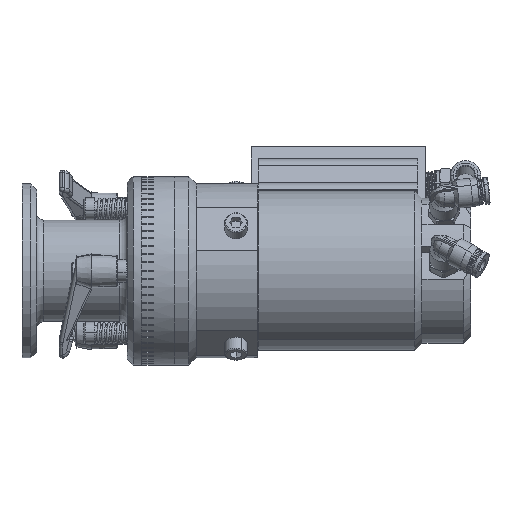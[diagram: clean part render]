
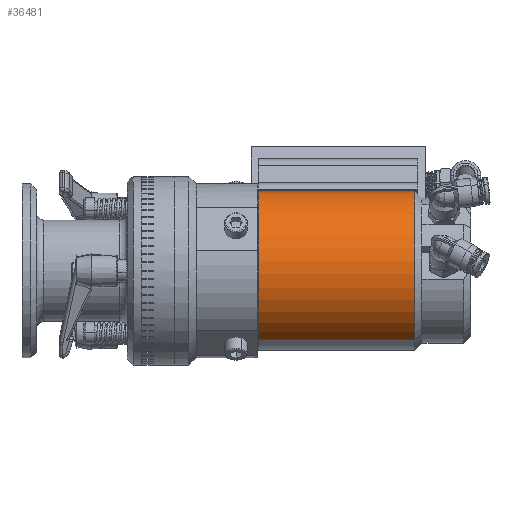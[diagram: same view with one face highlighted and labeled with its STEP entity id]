
A CAD part, left-side view. The second image highlights one B-rep face of the part: STEP entity #36481.
In plain terms, the highlighted cylindrical face has radius 34.925 mm (diameter 69.85 mm), a partial arc.
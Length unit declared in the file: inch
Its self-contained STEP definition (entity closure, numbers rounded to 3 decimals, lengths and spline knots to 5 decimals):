
#246 = LINE ( 'NONE', #3367, #35612 ) ;
#1069 = AXIS2_PLACEMENT_3D ( 'NONE', #7507, #35779, #32667 ) ;
#3316 = EDGE_CURVE ( 'Defeatured_0_6+Defeatured_0_5+Defeatured_0_634+Defeatured_0_9', #40053, #45210, #36994, .T. ) ;
#3367 = CARTESIAN_POINT ( 'NONE',  ( -0.40791, -5.99752, 0.82343 ) ) ;
#3450 = ORIENTED_EDGE ( 'NONE', *, *, #9420, .T. ) ;
#5210 = DIRECTION ( 'NONE',  ( 0., 1., 0. ) ) ;
#5370 = CARTESIAN_POINT ( 'NONE',  ( -0.70923, -3.17452, -0.51815 ) ) ;
#6387 = EDGE_CURVE ( 'Defeatured_0_6+Defeatured_0_8+Defeatured_0_635+Defeatured_0_634', #28865, #24418, #8075, .T. ) ;
#7507 = CARTESIAN_POINT ( 'NONE',  ( -0.70923, -5.99752, -0.51815 ) ) ;
#8075 = CIRCLE ( 'NONE', #34562, 1.375 ) ;
#8818 = CARTESIAN_POINT ( 'NONE',  ( -1.39673, -5.99752, -1.70894 ) ) ;
#9420 = EDGE_CURVE ( 'Defeatured_0_6+Defeatured_0_634+Defeatured_0_8+Defeatured_0_5', #24418, #40053, #246, .T. ) ;
#10750 = CIRCLE ( 'NONE', #36939, 1.375 ) ;
#12401 = CARTESIAN_POINT ( 'NONE',  ( -0.40791, -5.87252, 0.82343 ) ) ;
#12474 = ORIENTED_EDGE ( 'NONE', *, *, #32293, .F. ) ;
#14401 = ORIENTED_EDGE ( 'NONE', *, *, #6387, .T. ) ;
#14880 = VECTOR ( 'NONE', #27041, 39.37008 ) ;
#15749 = CARTESIAN_POINT ( 'NONE',  ( -0.40791, -5.99752, 0.82343 ) ) ;
#19750 = VERTEX_POINT ( 'NONE', #29378 ) ;
#19860 = DIRECTION ( 'NONE',  ( 0., 1., 0. ) ) ;
#20579 = VECTOR ( 'NONE', #22740, 39.37008 ) ;
#20623 = CARTESIAN_POINT ( 'NONE',  ( -0.40791, -3.17452, 0.82343 ) ) ;
#22029 = CYLINDRICAL_SURFACE ( 'NONE', #1069, 1.375 ) ;
#22740 = DIRECTION ( 'NONE',  ( 0., 1., 0. ) ) ;
#24418 = VERTEX_POINT ( 'NONE', #12401 ) ;
#27041 = DIRECTION ( 'NONE',  ( 0., 1., 0. ) ) ;
#27313 = CARTESIAN_POINT ( 'NONE',  ( -1.39673, -5.87252, -1.70894 ) ) ;
#28700 = EDGE_LOOP ( 'NONE', ( #12474, #14401, #3450, #41686, #44030 ) ) ;
#28865 = VERTEX_POINT ( 'NONE', #27313 ) ;
#29378 = CARTESIAN_POINT ( 'NONE',  ( -1.39673, -3.17452, -1.70894 ) ) ;
#29935 = DIRECTION ( 'NONE',  ( -0.5, 0., -0.866 ) ) ;
#30539 = DIRECTION ( 'NONE',  ( 0.5, 0., 0.866 ) ) ;
#32293 = EDGE_CURVE ( 'NONE', #28865, #19750, #42786, .T. ) ;
#32667 = DIRECTION ( 'NONE',  ( -0.5, 0., -0.866 ) ) ;
#34562 = AXIS2_PLACEMENT_3D ( 'NONE', #37472, #19860, #30539 ) ;
#35336 = CARTESIAN_POINT ( 'NONE',  ( -0.40791, -3.17952, 0.82343 ) ) ;
#35612 = VECTOR ( 'NONE', #38434, 39.37008 ) ;
#35779 = DIRECTION ( 'NONE',  ( 0., 1., 0. ) ) ;
#36481 = ADVANCED_FACE ( 'Defeatured_0_6', ( #38587 ), #22029, .T. ) ;
#36939 = AXIS2_PLACEMENT_3D ( 'NONE', #5370, #5210, #29935 ) ;
#36994 = LINE ( 'NONE', #15749, #14880 ) ;
#37472 = CARTESIAN_POINT ( 'NONE',  ( -0.70923, -5.87252, -0.51815 ) ) ;
#38434 = DIRECTION ( 'NONE',  ( 0., 1., 0. ) ) ;
#38587 = FACE_OUTER_BOUND ( 'NONE', #28700, .T. ) ;
#40053 = VERTEX_POINT ( 'NONE', #35336 ) ;
#41116 = EDGE_CURVE ( 'Defeatured_0_9+Defeatured_0_6+Defeatured_0_5+Defeatured_0_5', #19750, #45210, #10750, .T. ) ;
#41686 = ORIENTED_EDGE ( 'NONE', *, *, #3316, .T. ) ;
#42786 = LINE ( 'NONE', #8818, #20579 ) ;
#44030 = ORIENTED_EDGE ( 'NONE', *, *, #41116, .F. ) ;
#45210 = VERTEX_POINT ( 'NONE', #20623 ) ;
